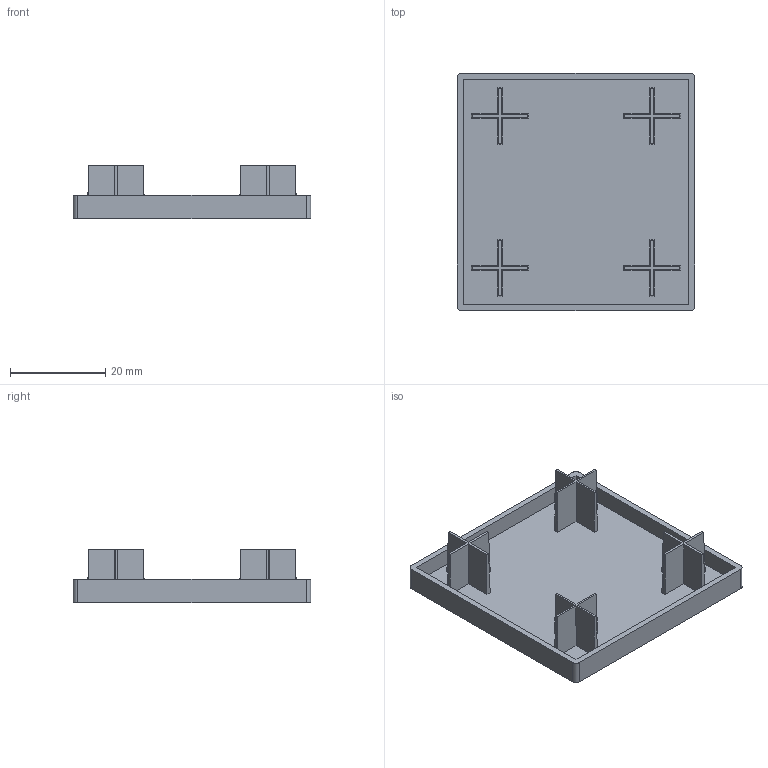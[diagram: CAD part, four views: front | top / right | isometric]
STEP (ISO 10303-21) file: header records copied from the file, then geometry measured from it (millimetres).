
FILE_DESCRIPTION (( 'STEP AP203' ), '1' );
FILE_NAME ('EC5050-8.STEP', '2024-02-19T05:58:15', ( '' ), ( '' ), 'SwSTEP 2.0', 'SolidWorks 2022', '' );
FILE_SCHEMA (( 'CONFIG_CONTROL_DESIGN' ));
Length unit declared in the file: millimetre
Products named in the file (1): EC5050-8
Bounding box: 50 x 50 x 11.3 mm (x, y, z)
Volume: 4853.8 mm3; surface area: 8512.8 mm2
Topology: 1 solids, 1 shells, 71 faces, 192 edges, 128 vertices
Faces by surface type: plane 47, cone 20, cylinder 4
Entity records: 2439 total; most frequent: CARTESIAN_POINT 584, ORIENTED_EDGE 384, DIRECTION 352, EDGE_CURVE 192, VERTEX_POINT 128, AXIS2_PLACEMENT_3D 120, LINE 112, VECTOR 112
